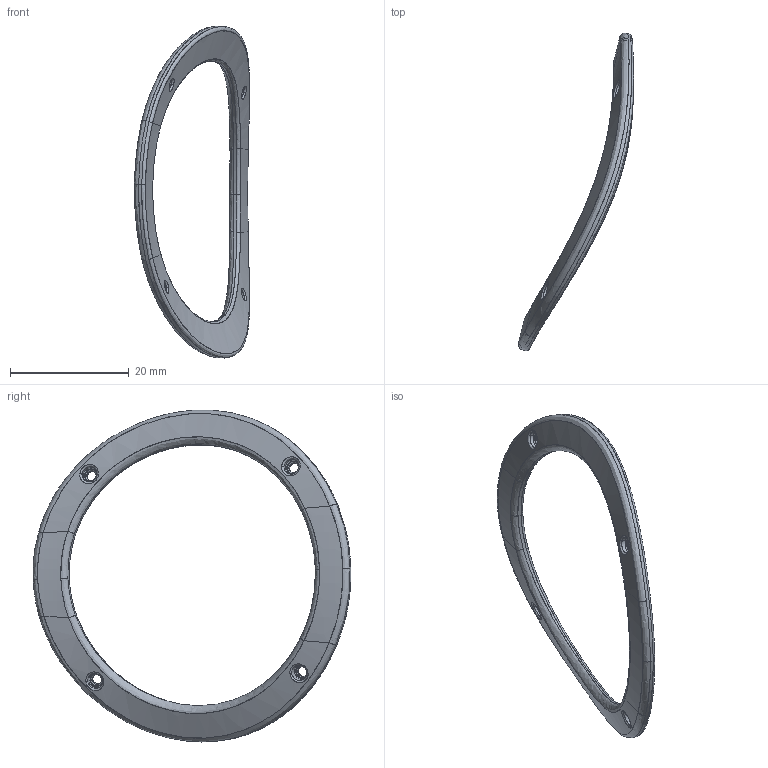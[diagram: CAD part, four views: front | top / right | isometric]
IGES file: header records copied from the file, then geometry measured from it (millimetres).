
Start section: Speaker 2 inch..SLDPRT - PrototypeComponentType Speaker 2 inch..SLDPRT - PrototypeComponentType Speaker 2 inch..SLDPRT - PrototypeComponentType Speaker 2 inch..SLDPRT - PrototypeComponentType 10 rocker-switch-KCD1..SLDPRT - PrototypeComponentType 10 rocker-switch-KCD1..SLDPRT - PrototypeComponentType 10 rocker-switch-KCD1..SLDPRT - PrototypeComponentType 10 rocker-switch-KCD1..SLDPRT - PrototypeCo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
Global section: file name: C:\Users\Victor\Desktop\AroDerecha.igs; native system: Rhinoceros ( Feb 27 2019 ); preprocessor: Trout Lake IGES 012 Feb 27 2019; date: 240310.231139; units: millimetre
Bounding box: 19.38 x 53.49 x 55.87 mm (x, y, z)
Surface area: 2389.6 mm2 (no closed solid volume)
Topology: 0 solids, 0 shells, 88 faces, 1041 edges, 1039 vertices
Faces by surface type: bspline 88
